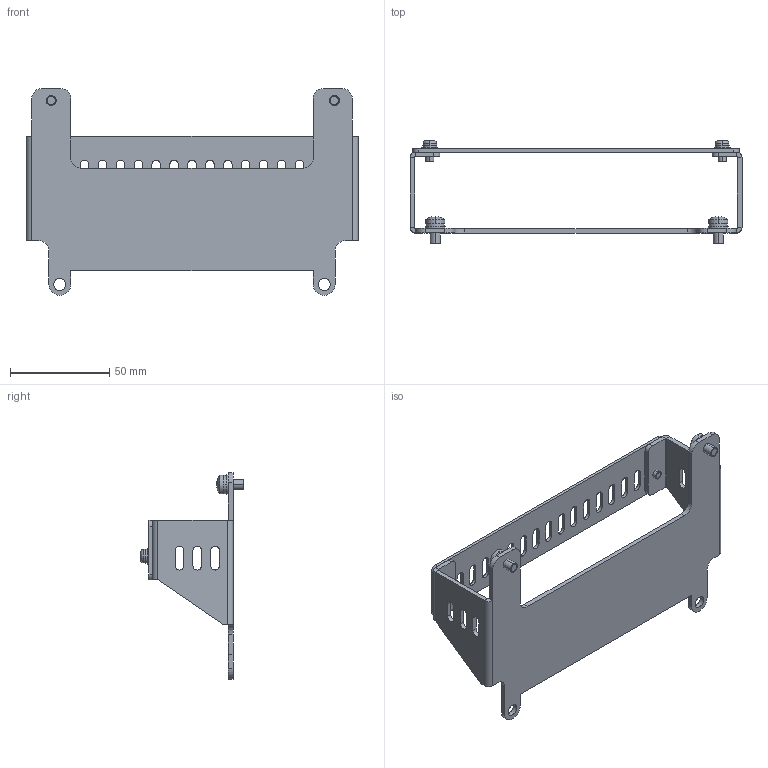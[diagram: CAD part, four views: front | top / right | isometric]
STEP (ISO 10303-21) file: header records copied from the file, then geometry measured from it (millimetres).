
FILE_DESCRIPTION((''),'2;1');
FILE_NAME('ZHZ-GA50V4_ASM','2020-10-19T',('anm'),('YASKAWA ELECTRIC CORCORATION'),'PRO/ENGINEER BY PARAMETRIC TECHNOLOGY CORPORATION, 2015440','PRO/ENGINEER BY PARAMETRIC TECHNOLOGY CORPORATION, 2015440','');
FILE_SCHEMA(('CONFIG_CONTROL_DESIGN'));
Length unit declared in the file: millimetre
Products named in the file (5): 400-125-061; 400-127-198; MS15_M4X8; SCAT41166; ZHZ-GA50V4_ASM
Assembly tree (6 placements, depth 2):
  ZHZ-GA50V4_ASM
    400-125-061
    400-127-198
    MS15_M4X8  x2
    SCAT41166  x2
Bounding box: 167 x 52.1 x 104 mm (x, y, z)
Volume: 38914.6 mm3; surface area: 41243.5 mm2
Topology: 6 solids, 18 shells, 362 faces, 922 edges, 604 vertices
Faces by surface type: plane 174, cylinder 160, torus 16, sphere 8, cone 4
Entity records: 9668 total; most frequent: CARTESIAN_POINT 1712, DIRECTION 1706, ORIENTED_EDGE 1540, EDGE_CURVE 786, AXIS2_PLACEMENT_3D 612, VERTEX_POINT 518, VECTOR 482, LINE 482
